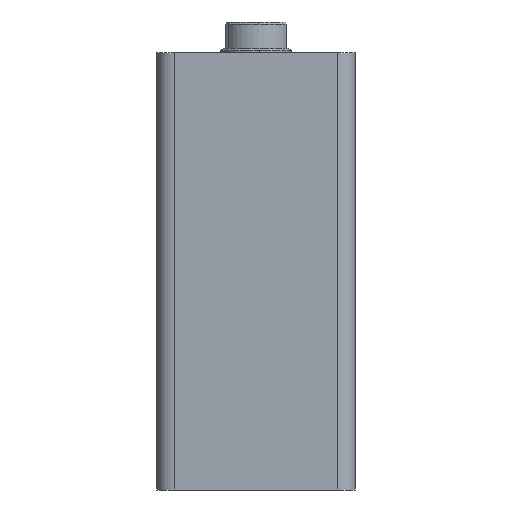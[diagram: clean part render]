
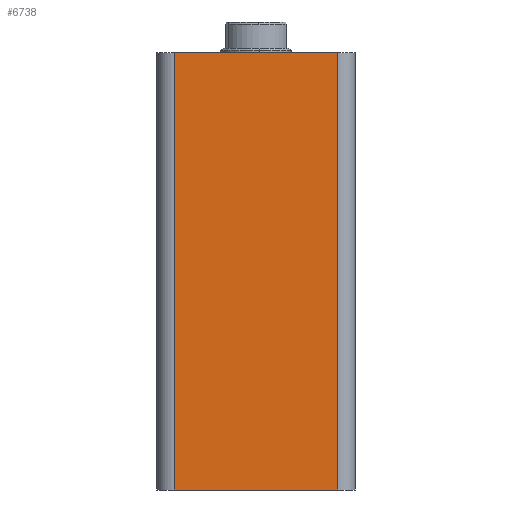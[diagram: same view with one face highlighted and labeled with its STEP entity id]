
A CAD part, front view. The second image highlights one B-rep face of the part: STEP entity #6738.
In plain terms, the highlighted planar face has unit normal (0, -1, 0).
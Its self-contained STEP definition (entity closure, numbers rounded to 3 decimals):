
#25 = LINE ( 'NONE', #14581, #15723 ) ;
#96 = CARTESIAN_POINT ( 'NONE',  ( 4., 0., 99. ) ) ;
#816 = CARTESIAN_POINT ( 'NONE',  ( 4., 0., 0. ) ) ;
#826 = VERTEX_POINT ( 'NONE', #2753 ) ;
#1637 = EDGE_CURVE ( 'NONE', #9624, #826, #8073, .T. ) ;
#2646 = EDGE_LOOP ( 'NONE', ( #6359, #7129, #14735, #15159 ) ) ;
#2753 = CARTESIAN_POINT ( 'NONE',  ( 41., 0., 0. ) ) ;
#2787 = CARTESIAN_POINT ( 'NONE',  ( 0., 0., 0. ) ) ;
#3327 = PLANE ( 'NONE',  #16814 ) ;
#3669 = VECTOR ( 'NONE', #16616, 1000. ) ;
#5146 = DIRECTION ( 'NONE',  ( 0., 0., -1. ) ) ;
#5509 = EDGE_CURVE ( 'NONE', #10163, #9624, #25, .T. ) ;
#6359 = ORIENTED_EDGE ( 'NONE', *, *, #1637, .T. ) ;
#6421 = CARTESIAN_POINT ( 'NONE',  ( 41., 0., 99. ) ) ;
#6738 = ADVANCED_FACE ( 'NONE', ( #14981 ), #3327, .F. ) ;
#7094 = DIRECTION ( 'NONE',  ( 0., 1., 0. ) ) ;
#7129 = ORIENTED_EDGE ( 'NONE', *, *, #13921, .T. ) ;
#7223 = VECTOR ( 'NONE', #9136, 1000. ) ;
#7841 = VECTOR ( 'NONE', #15188, 1000. ) ;
#7900 = VERTEX_POINT ( 'NONE', #10113 ) ;
#8073 = LINE ( 'NONE', #2787, #3669 ) ;
#8516 = DIRECTION ( 'NONE',  ( 0., 0., 1. ) ) ;
#8682 = CARTESIAN_POINT ( 'NONE',  ( 0., 0., 99. ) ) ;
#8781 = EDGE_CURVE ( 'NONE', #10163, #7900, #10001, .T. ) ;
#9136 = DIRECTION ( 'NONE',  ( 0., 0., 1. ) ) ;
#9624 = VERTEX_POINT ( 'NONE', #816 ) ;
#10001 = LINE ( 'NONE', #11523, #7841 ) ;
#10113 = CARTESIAN_POINT ( 'NONE',  ( 41., 0., 99. ) ) ;
#10163 = VERTEX_POINT ( 'NONE', #96 ) ;
#11523 = CARTESIAN_POINT ( 'NONE',  ( 0., 0., 99. ) ) ;
#12787 = LINE ( 'NONE', #6421, #7223 ) ;
#13921 = EDGE_CURVE ( 'NONE', #826, #7900, #12787, .T. ) ;
#14581 = CARTESIAN_POINT ( 'NONE',  ( 4., 0., 99. ) ) ;
#14735 = ORIENTED_EDGE ( 'NONE', *, *, #8781, .F. ) ;
#14981 = FACE_OUTER_BOUND ( 'NONE', #2646, .T. ) ;
#15159 = ORIENTED_EDGE ( 'NONE', *, *, #5509, .T. ) ;
#15188 = DIRECTION ( 'NONE',  ( 1., 0., 0. ) ) ;
#15723 = VECTOR ( 'NONE', #5146, 1000. ) ;
#16616 = DIRECTION ( 'NONE',  ( 1., 0., 0. ) ) ;
#16814 = AXIS2_PLACEMENT_3D ( 'NONE', #8682, #7094, #8516 ) ;
